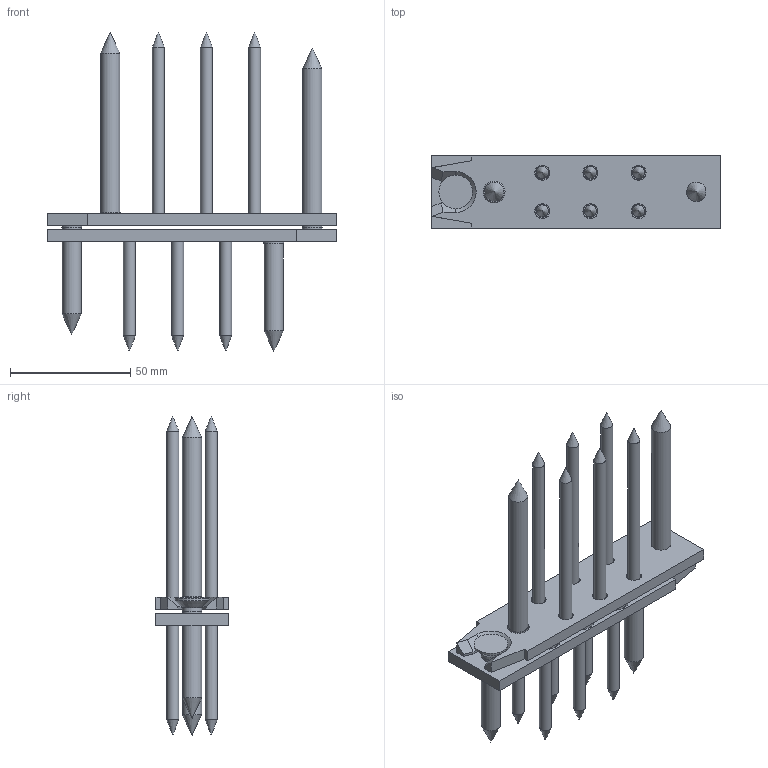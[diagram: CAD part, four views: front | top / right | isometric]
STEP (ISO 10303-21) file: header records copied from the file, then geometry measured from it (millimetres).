
FILE_DESCRIPTION(/* description */ ('Unknown'),/* implementation_level */ '2;1');
FILE_NAME(/* name */ 'RICON Edelstahl_120x30_EA',/* time_stamp */ '2022-02-08T08:03:01+01:00',/* author */ ('Unknown'),/* organization */ ('Unknown'),/* preprocessor_version */ 'ST-DEVELOPER v16.7',/* originating_system */ 'Solid Edge',/* authorisation */ 'Unknown');
FILE_SCHEMA (('AUTOMOTIVE_DESIGN {1 0 10303 214 3 1 1}'));
Length unit declared in the file: millimetre
Products named in the file (6): RICON_30x120_zusammenbau_mit Fase; RICON_30x120_mit Fase; SK_Schraube_5x50; SK_Schraube_8x50; SK_Schraube_5x80; SK_Schraube_8x80
Assembly tree (18 placements, depth 2):
  RICON_30x120_zusammenbau_mit Fase
    RICON_30x120_mit Fase  x2
    SK_Schraube_5x50  x6
    SK_Schraube_8x50  x2
    SK_Schraube_5x80  x6
    SK_Schraube_8x80  x2
Bounding box: 120 x 30 x 132.5 mm (x, y, z)
Volume: 56720.4 mm3; surface area: 37254 mm2
Topology: 18 solids, 18 shells, 196 faces, 400 edges, 252 vertices
Faces by surface type: plane 82, cylinder 66, cone 48
Full cylindrical faces by diameter (mm): 5 x12, 6 x12, 6.2 x12, 8 x6, 8.3 x4, 9.1 x2, 10 x6, 10.2 x6, 14 x4
Entity records: 1856 total; most frequent: DIRECTION 324, CARTESIAN_POINT 272, ORIENTED_EDGE 204, AXIS2_PLACEMENT_3D 137, FACE_BOUND 121, EDGE_LOOP 119, EDGE_CURVE 102, VERTEX_POINT 85
